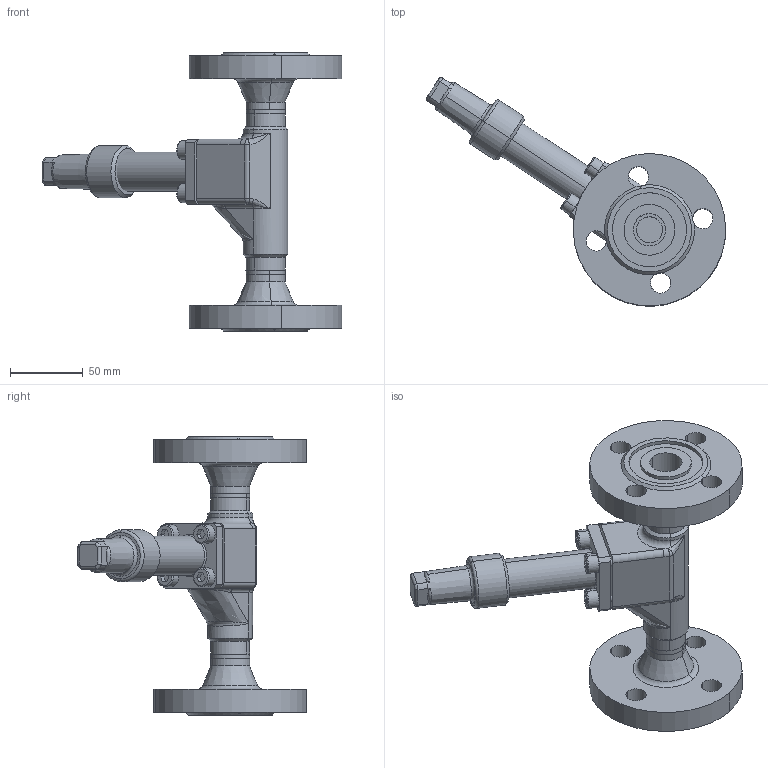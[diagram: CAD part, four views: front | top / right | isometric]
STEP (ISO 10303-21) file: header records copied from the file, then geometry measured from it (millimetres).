
FILE_DESCRIPTION (( 'STEP AP214' ), '1' );
FILE_NAME ('RVAK97320-DN020_DIN-FL-N_PS40.STEP', '2006-05-02T08:44:39', ( 'Herr Grams' ), ( 'AWP GmbH' ), 'SwSTEP 2.0', 'SolidWorks 2002296', '' );
FILE_SCHEMA (( 'AUTOMOTIVE_DESIGN' ));
Length unit declared in the file: millimetre
Products named in the file (10): RVAK97320-DN020_DIN-FL-N_PS40; Kappe96300E10_DN6-20_Standard; Geh-kpl96320E11-DN20_PS40_DIN-FL_Standard; Gehäuse96300E11-DN20_PS40_R1_Standard; bead963-DN020-1_Standard; Flansch-DIN2635-Nut_PS40_DIN-Flansch-DN020_PS40-Nut; bead963-DN020-2_Standard; RVA99300E11_Deck+Schr-DN20_Standard; Deckel99300E11-DN20_PS40_Standard; Zylinderschraube-DIN912_M 8x 20
Assembly tree (13 placements, depth 3):
  RVAK97320-DN020_DIN-FL-N_PS40
    Kappe96300E10_DN6-20_Standard
    RVA99300E11_Deck+Schr-DN20_Standard
      Zylinderschraube-DIN912_M 8x 20  x4
      Deckel99300E11-DN20_PS40_Standard
    Geh-kpl96320E11-DN20_PS40_DIN-FL_Standard
      Flansch-DIN2635-Nut_PS40_DIN-Flansch-DN020_PS40-Nut  x2
      bead963-DN020-1_Standard
      bead963-DN020-2_Standard
      Gehäuse96300E11-DN20_PS40_R1_Standard
Bounding box: 206.25 x 157.43 x 192 mm (x, y, z)
Volume: 468959.7 mm3; surface area: 113023.6 mm2
Topology: 11 solids, 11 shells, 331 faces, 762 edges, 463 vertices
Faces by surface type: cylinder 129, plane 97, cone 46, torus 32, bspline 21, sphere 6
Entity records: 20611 total; most frequent: CARTESIAN_POINT 14383, DIRECTION 1189, ORIENTED_EDGE 1120, EDGE_CURVE 560, AXIS2_PLACEMENT_3D 498, VERTEX_POINT 339, EDGE_LOOP 281, CIRCLE 256
